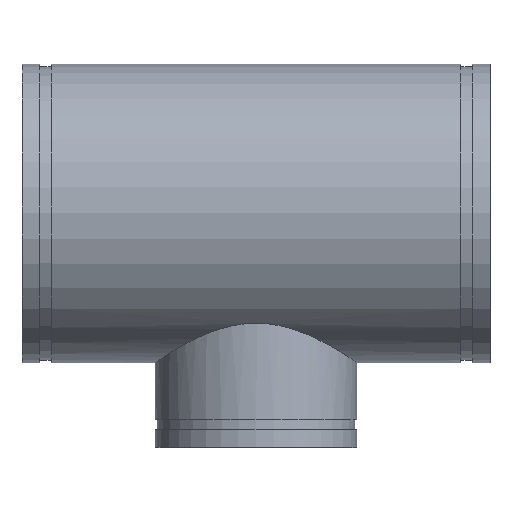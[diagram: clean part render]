
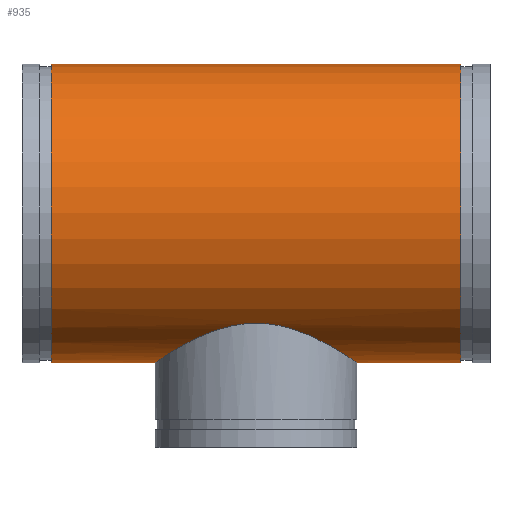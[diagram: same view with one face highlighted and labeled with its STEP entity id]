
A CAD part, top view. The second image highlights one B-rep face of the part: STEP entity #935.
In plain terms, the highlighted cylindrical face has radius 161.925 mm (diameter 323.85 mm), a full revolution.
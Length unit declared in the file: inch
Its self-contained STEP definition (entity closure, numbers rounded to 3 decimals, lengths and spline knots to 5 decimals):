
#61=FACE_BOUND('',#222,.T.);
#67=B_SPLINE_CURVE_WITH_KNOTS('',3,(#1807,#1808,#1809,#1810,#1811,#1812,
#1813,#1814,#1815,#1816,#1817,#1818,#1819,#1820,#1821,#1822,#1823,#1824,
#1825,#1826),.UNSPECIFIED.,.F.,.F.,(4,2,2,2,2,2,2,2,2,4),(0.,1.08261,
2.16523,4.33045,6.49568,8.66091,10.80041,
12.93991,15.07941,17.21892),.UNSPECIFIED.);
#68=B_SPLINE_CURVE_WITH_KNOTS('',3,(#1827,#1828,#1829,#1830,#1831,#1832,
#1833,#1834,#1835,#1836,#1837,#1838,#1839,#1840,#1841,#1842,#1843,#1844,
#1845,#1846,#1847,#1848,#1849,#1850,#1851,#1852,#1853,#1854,#1855,#1856,
#1857,#1858,#1859,#1860,#1861,#1862,#1863,#1864,#1865,#1866,#1867,#1868,
#1869,#1870,#1871,#1872,#1873,#1874,#1875,#1876,#1877,#1878,#1879,#1880,
#1881,#1882),.UNSPECIFIED.,.F.,.F.,(4,2,2,2,2,2,2,2,2,2,2,2,2,2,2,2,2,2,
2,2,2,2,2,2,2,2,2,4),(17.21892,19.35842,21.49792,
23.63743,25.77693,27.94215,30.10738,32.27261,
33.35522,34.43783,35.52045,36.60306,38.76829,
40.93351,43.09874,45.23824,47.37774,49.51725,
51.65675,53.79625,55.93576,58.07526,60.21476,
62.37999,64.54521,66.71044,67.79305,68.87567),
 .UNSPECIFIED.);
#81=CYLINDRICAL_SURFACE('',#1104,6.375);
#103=LINE('',#1804,#125);
#125=VECTOR('',#1432,6.375);
#171=FACE_OUTER_BOUND('',#221,.T.);
#221=EDGE_LOOP('',(#814,#815,#816,#817));
#222=EDGE_LOOP('',(#818,#819));
#326=CIRCLE('',#1087,6.375);
#337=CIRCLE('',#1103,6.375);
#424=VERTEX_POINT('',#1772);
#435=VERTEX_POINT('',#1801);
#436=VERTEX_POINT('',#1805);
#437=VERTEX_POINT('',#1806);
#552=EDGE_CURVE('',#424,#424,#326,.T.);
#565=EDGE_CURVE('',#435,#435,#337,.T.);
#566=EDGE_CURVE('',#435,#424,#103,.T.);
#567=EDGE_CURVE('',#436,#437,#67,.T.);
#568=EDGE_CURVE('',#437,#436,#68,.T.);
#814=ORIENTED_EDGE('',*,*,#565,.T.);
#815=ORIENTED_EDGE('',*,*,#566,.T.);
#816=ORIENTED_EDGE('',*,*,#552,.T.);
#817=ORIENTED_EDGE('',*,*,#566,.F.);
#818=ORIENTED_EDGE('',*,*,#567,.T.);
#819=ORIENTED_EDGE('',*,*,#568,.T.);
#935=ADVANCED_FACE('',(#171,#61),#81,.T.);
#1087=AXIS2_PLACEMENT_3D('',#1773,#1394,#1395);
#1103=AXIS2_PLACEMENT_3D('',#1802,#1428,#1429);
#1104=AXIS2_PLACEMENT_3D('',#1803,#1430,#1431);
#1394=DIRECTION('center_axis',(-1.,0.,0.));
#1395=DIRECTION('ref_axis',(0.,-1.,0.));
#1428=DIRECTION('center_axis',(1.,0.,0.));
#1429=DIRECTION('ref_axis',(0.,-1.,0.));
#1430=DIRECTION('center_axis',(-1.,0.,0.));
#1431=DIRECTION('ref_axis',(0.,-1.,0.));
#1432=DIRECTION('',(1.,0.,0.));
#1772=CARTESIAN_POINT('',(8.75,6.375,0.));
#1773=CARTESIAN_POINT('Origin',(8.75,0.,0.));
#1801=CARTESIAN_POINT('',(-8.75,6.375,0.));
#1802=CARTESIAN_POINT('Origin',(-8.75,0.,0.));
#1803=CARTESIAN_POINT('Origin',(10.,0.,0.));
#1804=CARTESIAN_POINT('',(10.,6.375,0.));
#1805=CARTESIAN_POINT('',(0.,-4.69499,-4.3125));
#1806=CARTESIAN_POINT('',(-4.3125,-6.375,0.));
#1807=CARTESIAN_POINT('Ctrl Pts',(0.,-4.69499,
-4.3125));
#1808=CARTESIAN_POINT('Ctrl Pts',(-0.14208,-4.69499,
-4.3125));
#1809=CARTESIAN_POINT('Ctrl Pts',(-0.2852,-4.7015,
-4.30545));
#1810=CARTESIAN_POINT('Ctrl Pts',(-0.57099,-4.72745,
-4.27694));
#1811=CARTESIAN_POINT('Ctrl Pts',(-0.71365,-4.74689,
-4.25548));
#1812=CARTESIAN_POINT('Ctrl Pts',(-1.13733,-4.82279,-4.16979));
#1813=CARTESIAN_POINT('Ctrl Pts',(-1.41402,-4.89705,-4.08407));
#1814=CARTESIAN_POINT('Ctrl Pts',(-1.93987,-5.07393,-3.86212));
#1815=CARTESIAN_POINT('Ctrl Pts',(-2.1896,-5.17642,-3.7257));
#1816=CARTESIAN_POINT('Ctrl Pts',(-2.65061,-5.38765,-3.41313));
#1817=CARTESIAN_POINT('Ctrl Pts',(-2.8619,-5.49625,-3.2369));
#1818=CARTESIAN_POINT('Ctrl Pts',(-3.23467,-5.69929,-2.86413));
#1819=CARTESIAN_POINT('Ctrl Pts',(-3.41049,-5.80162,-2.65404));
#1820=CARTESIAN_POINT('Ctrl Pts',(-3.72379,-5.99116,-2.19289));
#1821=CARTESIAN_POINT('Ctrl Pts',(-3.86129,-6.07826,-1.94179));
#1822=CARTESIAN_POINT('Ctrl Pts',(-4.08465,-6.22254,-1.41272));
#1823=CARTESIAN_POINT('Ctrl Pts',(-4.17069,-6.27979,-1.13417));
#1824=CARTESIAN_POINT('Ctrl Pts',(-4.28464,-6.35604,-0.56821));
#1825=CARTESIAN_POINT('Ctrl Pts',(-4.3125,-6.375,-0.28077));
#1826=CARTESIAN_POINT('Ctrl Pts',(-4.3125,-6.375,0.));
#1827=CARTESIAN_POINT('Ctrl Pts',(-4.3125,-6.375,0.));
#1828=CARTESIAN_POINT('Ctrl Pts',(-4.3125,-6.375,0.28077));
#1829=CARTESIAN_POINT('Ctrl Pts',(-4.28464,-6.35604,0.56821));
#1830=CARTESIAN_POINT('Ctrl Pts',(-4.17069,-6.27979,1.13417));
#1831=CARTESIAN_POINT('Ctrl Pts',(-4.08465,-6.22254,1.41272));
#1832=CARTESIAN_POINT('Ctrl Pts',(-3.86129,-6.07826,1.94179));
#1833=CARTESIAN_POINT('Ctrl Pts',(-3.72379,-5.99116,2.19289));
#1834=CARTESIAN_POINT('Ctrl Pts',(-3.41049,-5.80162,2.65404));
#1835=CARTESIAN_POINT('Ctrl Pts',(-3.23467,-5.69929,2.86413));
#1836=CARTESIAN_POINT('Ctrl Pts',(-2.8619,-5.49625,3.2369));
#1837=CARTESIAN_POINT('Ctrl Pts',(-2.65061,-5.38765,3.41313));
#1838=CARTESIAN_POINT('Ctrl Pts',(-2.1896,-5.17642,3.7257));
#1839=CARTESIAN_POINT('Ctrl Pts',(-1.93987,-5.07393,3.86212));
#1840=CARTESIAN_POINT('Ctrl Pts',(-1.41402,-4.89705,4.08407));
#1841=CARTESIAN_POINT('Ctrl Pts',(-1.13733,-4.82279,4.16979));
#1842=CARTESIAN_POINT('Ctrl Pts',(-0.71365,-4.74689,
4.25548));
#1843=CARTESIAN_POINT('Ctrl Pts',(-0.57099,-4.72745,
4.27694));
#1844=CARTESIAN_POINT('Ctrl Pts',(-0.2852,-4.7015,
4.30545));
#1845=CARTESIAN_POINT('Ctrl Pts',(-0.14208,-4.69499,
4.3125));
#1846=CARTESIAN_POINT('Ctrl Pts',(0.14208,-4.69499,4.3125));
#1847=CARTESIAN_POINT('Ctrl Pts',(0.2852,-4.7015,4.30545));
#1848=CARTESIAN_POINT('Ctrl Pts',(0.57099,-4.72745,4.27694));
#1849=CARTESIAN_POINT('Ctrl Pts',(0.71365,-4.74689,4.25548));
#1850=CARTESIAN_POINT('Ctrl Pts',(1.13733,-4.82279,4.16979));
#1851=CARTESIAN_POINT('Ctrl Pts',(1.41402,-4.89705,4.08407));
#1852=CARTESIAN_POINT('Ctrl Pts',(1.93987,-5.07393,3.86212));
#1853=CARTESIAN_POINT('Ctrl Pts',(2.1896,-5.17642,3.7257));
#1854=CARTESIAN_POINT('Ctrl Pts',(2.65061,-5.38765,3.41313));
#1855=CARTESIAN_POINT('Ctrl Pts',(2.8619,-5.49625,3.2369));
#1856=CARTESIAN_POINT('Ctrl Pts',(3.23467,-5.69929,2.86413));
#1857=CARTESIAN_POINT('Ctrl Pts',(3.41049,-5.80162,2.65404));
#1858=CARTESIAN_POINT('Ctrl Pts',(3.72379,-5.99116,2.19289));
#1859=CARTESIAN_POINT('Ctrl Pts',(3.86129,-6.07826,1.94179));
#1860=CARTESIAN_POINT('Ctrl Pts',(4.08465,-6.22254,1.41272));
#1861=CARTESIAN_POINT('Ctrl Pts',(4.17069,-6.27979,1.13417));
#1862=CARTESIAN_POINT('Ctrl Pts',(4.28464,-6.35604,0.56821));
#1863=CARTESIAN_POINT('Ctrl Pts',(4.3125,-6.375,0.28077));
#1864=CARTESIAN_POINT('Ctrl Pts',(4.3125,-6.375,-0.28077));
#1865=CARTESIAN_POINT('Ctrl Pts',(4.28464,-6.35604,-0.56821));
#1866=CARTESIAN_POINT('Ctrl Pts',(4.17069,-6.27979,-1.13417));
#1867=CARTESIAN_POINT('Ctrl Pts',(4.08465,-6.22254,-1.41272));
#1868=CARTESIAN_POINT('Ctrl Pts',(3.86129,-6.07826,-1.94179));
#1869=CARTESIAN_POINT('Ctrl Pts',(3.72379,-5.99116,-2.19289));
#1870=CARTESIAN_POINT('Ctrl Pts',(3.41049,-5.80162,-2.65404));
#1871=CARTESIAN_POINT('Ctrl Pts',(3.23467,-5.69929,-2.86413));
#1872=CARTESIAN_POINT('Ctrl Pts',(2.8619,-5.49625,-3.2369));
#1873=CARTESIAN_POINT('Ctrl Pts',(2.65061,-5.38765,-3.41313));
#1874=CARTESIAN_POINT('Ctrl Pts',(2.1896,-5.17642,-3.7257));
#1875=CARTESIAN_POINT('Ctrl Pts',(1.93987,-5.07393,-3.86212));
#1876=CARTESIAN_POINT('Ctrl Pts',(1.41402,-4.89705,-4.08407));
#1877=CARTESIAN_POINT('Ctrl Pts',(1.13733,-4.82279,-4.16979));
#1878=CARTESIAN_POINT('Ctrl Pts',(0.71365,-4.74689,-4.25548));
#1879=CARTESIAN_POINT('Ctrl Pts',(0.57099,-4.72745,-4.27694));
#1880=CARTESIAN_POINT('Ctrl Pts',(0.2852,-4.7015,-4.30545));
#1881=CARTESIAN_POINT('Ctrl Pts',(0.14208,-4.69499,-4.3125));
#1882=CARTESIAN_POINT('Ctrl Pts',(0.,-4.69499,
-4.3125));
